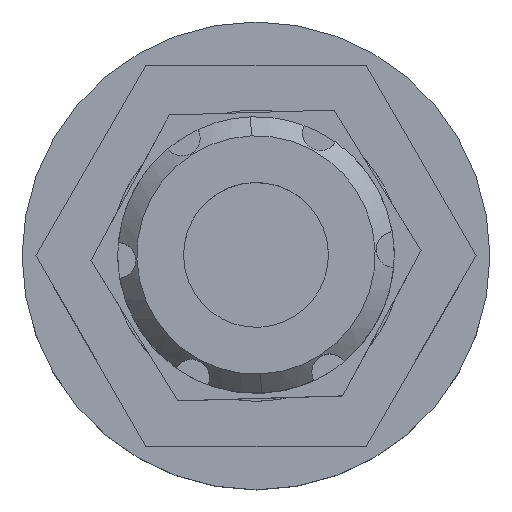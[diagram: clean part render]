
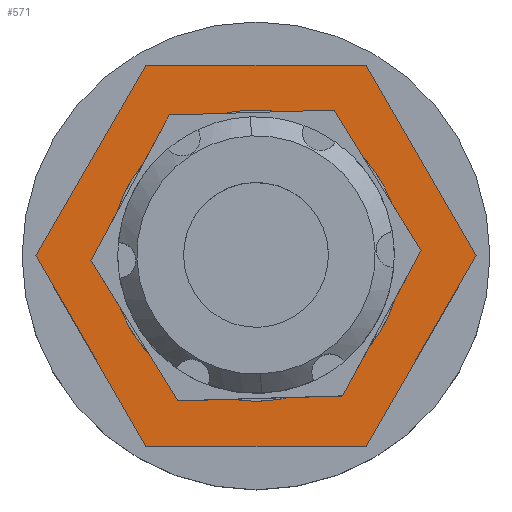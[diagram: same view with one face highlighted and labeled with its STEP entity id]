
A CAD part, top view. The second image highlights one B-rep face of the part: STEP entity #571.
In plain terms, the highlighted planar face has unit normal (0, 0, 1).
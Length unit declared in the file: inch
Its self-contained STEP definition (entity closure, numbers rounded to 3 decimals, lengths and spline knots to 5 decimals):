
#110 = VECTOR ( 'NONE', #991, 39.37008 ) ;
#111 = LINE ( 'NONE', #981, #110 ) ;
#113 = LINE ( 'NONE', #940, #125 ) ;
#125 = VECTOR ( 'NONE', #1014, 39.37008 ) ;
#218 = CARTESIAN_POINT ( 'NONE',  ( 0.05485, -1.42829, 0.673 ) ) ;
#219 = DIRECTION ( 'NONE',  ( 0.5, 0.866, 0. ) ) ;
#284 = EDGE_CURVE ( 'NONE', #369, #359, #113, .T. ) ;
#285 = EDGE_CURVE ( 'NONE', #359, #361, #111, .T. ) ;
#312 = VERTEX_POINT ( 'NONE', #1036 ) ;
#332 = EDGE_LOOP ( 'NONE', ( #873, #912 ) ) ;
#359 = VERTEX_POINT ( 'NONE', #992 ) ;
#361 = VERTEX_POINT ( 'NONE', #965 ) ;
#364 = EDGE_LOOP ( 'NONE', ( #908, #830, #915, #829, #906, #825 ) ) ;
#369 = VERTEX_POINT ( 'NONE', #1010 ) ;
#397 = VERTEX_POINT ( 'NONE', #1026 ) ;
#400 = VERTEX_POINT ( 'NONE', #1000 ) ;
#478 = PLANE ( 'NONE',  #1553 ) ;
#571 = ADVANCED_FACE ( 'NONE', ( #1288, #1289 ), #478, .F. ) ;
#825 = ORIENTED_EDGE ( 'NONE', *, *, #1204, .T. ) ;
#829 = ORIENTED_EDGE ( 'NONE', *, *, #1201, .T. ) ;
#830 = ORIENTED_EDGE ( 'NONE', *, *, #284, .T. ) ;
#873 = ORIENTED_EDGE ( 'NONE', *, *, #1191, .F. ) ;
#894 = VERTEX_POINT ( 'NONE', #1970 ) ;
#905 = VERTEX_POINT ( 'NONE', #1971 ) ;
#906 = ORIENTED_EDGE ( 'NONE', *, *, #1202, .T. ) ;
#908 = ORIENTED_EDGE ( 'NONE', *, *, #1696, .T. ) ;
#912 = ORIENTED_EDGE ( 'NONE', *, *, #1203, .F. ) ;
#915 = ORIENTED_EDGE ( 'NONE', *, *, #285, .T. ) ;
#940 = CARTESIAN_POINT ( 'NONE',  ( 0.6322, -0.42829, 0.673 ) ) ;
#965 = CARTESIAN_POINT ( 'NONE',  ( -1.09985, 0.57171, 0.673 ) ) ;
#981 = CARTESIAN_POINT ( 'NONE',  ( 0.05485, 0.57171, 0.673 ) ) ;
#991 = DIRECTION ( 'NONE',  ( -1., 0., 0. ) ) ;
#992 = CARTESIAN_POINT ( 'NONE',  ( 0.05485, 0.57171, 0.673 ) ) ;
#1000 = CARTESIAN_POINT ( 'NONE',  ( -0.49973, -1.19145, 0.673 ) ) ;
#1010 = CARTESIAN_POINT ( 'NONE',  ( 0.6322, -0.42829, 0.673 ) ) ;
#1014 = DIRECTION ( 'NONE',  ( -0.5, 0.866, 0. ) ) ;
#1026 = CARTESIAN_POINT ( 'NONE',  ( -1.6772, -0.42829, 0.673 ) ) ;
#1036 = CARTESIAN_POINT ( 'NONE',  ( 0.05485, -1.42829, 0.673 ) ) ;
#1191 = EDGE_CURVE ( 'NONE', #400, #905, #1412, .T. ) ;
#1201 = EDGE_CURVE ( 'NONE', #361, #397, #1429, .T. ) ;
#1202 = EDGE_CURVE ( 'NONE', #397, #894, #1431, .T. ) ;
#1203 = EDGE_CURVE ( 'NONE', #905, #400, #1433, .T. ) ;
#1204 = EDGE_CURVE ( 'NONE', #894, #312, #1435, .T. ) ;
#1288 = FACE_OUTER_BOUND ( 'NONE', #364, .T. ) ;
#1289 = FACE_BOUND ( 'NONE', #332, .T. ) ;
#1412 = CIRCLE ( 'NONE', #1646, 0.7635 ) ;
#1429 = LINE ( 'NONE', #2048, #1432 ) ;
#1431 = LINE ( 'NONE', #2050, #1434 ) ;
#1432 = VECTOR ( 'NONE', #2049, 39.37008 ) ;
#1433 = CIRCLE ( 'NONE', #1650, 0.7635 ) ;
#1434 = VECTOR ( 'NONE', #2051, 39.37008 ) ;
#1435 = LINE ( 'NONE', #2043, #1437 ) ;
#1437 = VECTOR ( 'NONE', #2044, 39.37008 ) ;
#1517 = LINE ( 'NONE', #218, #1518 ) ;
#1518 = VECTOR ( 'NONE', #219, 39.37008 ) ;
#1553 = AXIS2_PLACEMENT_3D ( 'NONE', #2329, #2334, #2332 ) ;
#1646 = AXIS2_PLACEMENT_3D ( 'NONE', #2024, #2025, #2026 ) ;
#1650 = AXIS2_PLACEMENT_3D ( 'NONE', #2053, #2054, #2055 ) ;
#1696 = EDGE_CURVE ( 'NONE', #312, #369, #1517, .T. ) ;
#1970 = CARTESIAN_POINT ( 'NONE',  ( -1.09985, -1.42829, 0.673 ) ) ;
#1971 = CARTESIAN_POINT ( 'NONE',  ( -0.54527, 0.33487, 0.673 ) ) ;
#2024 = CARTESIAN_POINT ( 'NONE',  ( -0.5225, -0.42829, 0.673 ) ) ;
#2025 = DIRECTION ( 'NONE',  ( 0., 0., 1. ) ) ;
#2026 = DIRECTION ( 'NONE',  ( -1., 0., 0. ) ) ;
#2043 = CARTESIAN_POINT ( 'NONE',  ( -1.09985, -1.42829, 0.673 ) ) ;
#2044 = DIRECTION ( 'NONE',  ( 1., 0., 0. ) ) ;
#2048 = CARTESIAN_POINT ( 'NONE',  ( -1.09985, 0.57171, 0.673 ) ) ;
#2049 = DIRECTION ( 'NONE',  ( -0.5, -0.866, 0. ) ) ;
#2050 = CARTESIAN_POINT ( 'NONE',  ( -1.6772, -0.42829, 0.673 ) ) ;
#2051 = DIRECTION ( 'NONE',  ( 0.5, -0.866, 0. ) ) ;
#2053 = CARTESIAN_POINT ( 'NONE',  ( -0.5225, -0.42829, 0.673 ) ) ;
#2054 = DIRECTION ( 'NONE',  ( 0., 0., 1. ) ) ;
#2055 = DIRECTION ( 'NONE',  ( -1., 0., 0. ) ) ;
#2329 = CARTESIAN_POINT ( 'NONE',  ( 0.05485, -1.42829, 0.673 ) ) ;
#2332 = DIRECTION ( 'NONE',  ( -1., 0., 0. ) ) ;
#2334 = DIRECTION ( 'NONE',  ( 0., 0., -1. ) ) ;
